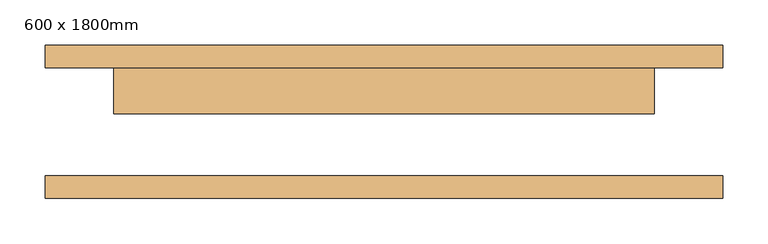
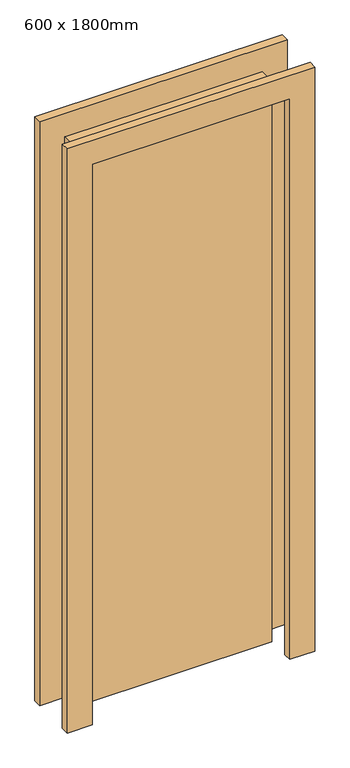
"""IFC4 building model written with IfcOpenShell, lengths in millimetres: door geometry, 单扇 - 与墙齐 : 600 x 1800mm."""

from ifc_helpers import new_model, si_unit, frame, origin, origin_with_axes, place, context, project, spatial, polyline, outline, extrude, source, transform, mapped, element, save


def door_600_x_1800mm_36ab3d57(model_context):
    return source(origin(), model_context, "Body", "SweptSolid", [
        extrude(outline(polyline([(1876.0, -376.0), (0.0, -376.0), (0.0, -300.0), (1800.0, -300.0), (1800.0, 300.0), (0.0, 300.0), (0.0, 376.0), (1876.0, 376.0), (1876.0, -376.0)])), frame((0.0, 60.0, 0.0), z_axis=(0.0, 1.0, 0.0), x_axis=(0.0, 0.0, 1.0)), (0.0, 0.0, 1.0), 25.0),
        extrude(outline(polyline([(1876.0, 376.0), (1876.0, -376.0), (0.0, -376.0), (0.0, -300.0), (1800.0, -300.0), (1800.0, 300.0), (0.0, 300.0), (0.0, 376.0), (1876.0, 376.0)])), frame((0.0, -85.0, 0.0), z_axis=(0.0, 1.0, 0.0), x_axis=(0.0, 0.0, 1.0)), (0.0, 0.0, 1.0), 25.0),
        extrude(outline(polyline([(300.0, 9.0), (-300.0, 9.0), (-300.0, 60.0), (300.0, 60.0), (300.0, 9.0)])), origin_with_axes(), (0.0, 0.0, 1.0), 1800.0),
    ])


if __name__ == "__main__":
    model = new_model("IFC4")
    model_context = context("Model", 3, world=origin())
    ifc_project = project(units=[si_unit("LENGTHUNIT", "METRE", prefix="MILLI")], contexts=[model_context])
    site = spatial("IfcSite", under=ifc_project)
    building = spatial("IfcBuilding", under=site)
    placement = place(None, origin())
    door_600_x_1800mm_shape = door_600_x_1800mm_36ab3d57(model_context)
    element("IfcDoor", 1, ObjectType="单扇 - 与墙齐 : 600 x 1800mm", at=placement, inside=building, context=model_context, shape_type="MappedRepresentation", body=[
        mapped(door_600_x_1800mm_shape, transform((0.0, 0.0, 0.0), x_axis=(1.0, 0.0, 0.0), y_axis=(0.0, 1.0, 0.0), z_axis=(0.0, 0.0, 1.0))),
    ])
    save(model, "model.ifc")
